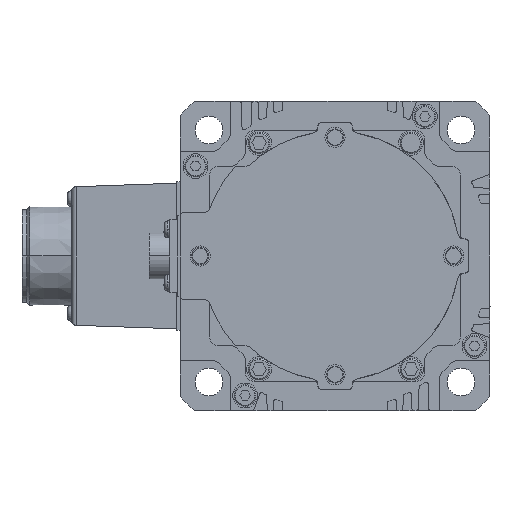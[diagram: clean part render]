
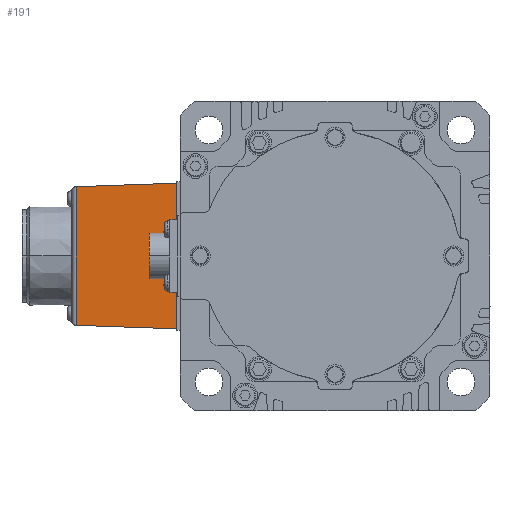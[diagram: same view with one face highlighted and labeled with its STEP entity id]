
A CAD part, left-side view. The second image highlights one B-rep face of the part: STEP entity #191.
In plain terms, the highlighted planar face has unit normal (-0.999, 0.035, 0).
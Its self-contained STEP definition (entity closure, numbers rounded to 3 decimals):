
#191 = ADVANCED_FACE( '', ( #945 ), #946, .T. );
#945 = FACE_OUTER_BOUND( '', #2279, .T. );
#946 = PLANE( '', #2280 );
#2279 = EDGE_LOOP( '', ( #4277, #4278, #4279, #4280 ) );
#2280 = AXIS2_PLACEMENT_3D( '', #4281, #4282, #4283 );
#4277 = ORIENTED_EDGE( '', *, *, #9075, .T. );
#4278 = ORIENTED_EDGE( '', *, *, #9100, .F. );
#4279 = ORIENTED_EDGE( '', *, *, #9084, .T. );
#4280 = ORIENTED_EDGE( '', *, *, #9099, .T. );
#4281 = CARTESIAN_POINT( '', ( -90.363, 83.552, 24. ) );
#4282 = DIRECTION( '', ( -0.999, 0.035, 0. ) );
#4283 = DIRECTION( '', ( 0.035, 0.999, 0. ) );
#9075 = EDGE_CURVE( '', #11119, #11117, #11120, .T. );
#9084 = EDGE_CURVE( '', #11135, #11133, #11136, .T. );
#9099 = EDGE_CURVE( '', #11133, #11119, #11158, .T. );
#9100 = EDGE_CURVE( '', #11135, #11117, #11159, .T. );
#11117 = VERTEX_POINT( '', #14238 );
#11119 = VERTEX_POINT( '', #14241 );
#11120 = LINE( '', #14242, #14243 );
#11133 = VERTEX_POINT( '', #14259 );
#11135 = VERTEX_POINT( '', #14262 );
#11136 = LINE( '', #14263, #14264 );
#11158 = LINE( '', #14298, #14299 );
#11159 = LINE( '', #14300, #14301 );
#14238 = CARTESIAN_POINT( '', ( -91.5, 51., -23.5 ) );
#14241 = CARTESIAN_POINT( '', ( -90.363, 83.552, -22.363 ) );
#14242 = CARTESIAN_POINT( '', ( -90.299, 85.394, -22.299 ) );
#14243 = VECTOR( '', #18143, 1. );
#14259 = CARTESIAN_POINT( '', ( -90.363, 83.552, 22.363 ) );
#14262 = CARTESIAN_POINT( '', ( -91.5, 51., 23.5 ) );
#14263 = CARTESIAN_POINT( '', ( -90.896, 68.301, 22.896 ) );
#14264 = VECTOR( '', #18160, 1. );
#14298 = CARTESIAN_POINT( '', ( -90.363, 83.552, 24. ) );
#14299 = VECTOR( '', #18179, 1. );
#14300 = CARTESIAN_POINT( '', ( -91.5, 51., 24. ) );
#14301 = VECTOR( '', #18180, 1. );
#18143 = DIRECTION( '', ( -0.035, -0.999, -0.035 ) );
#18160 = DIRECTION( '', ( 0.035, 0.999, -0.035 ) );
#18179 = DIRECTION( '', ( 0., 0., -1. ) );
#18180 = DIRECTION( '', ( 0., 0., -1. ) );
